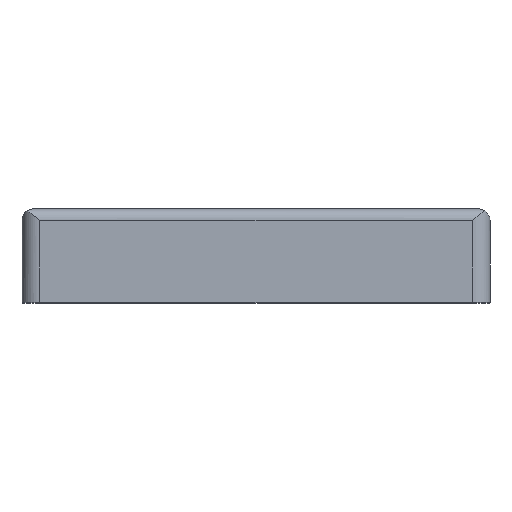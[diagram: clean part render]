
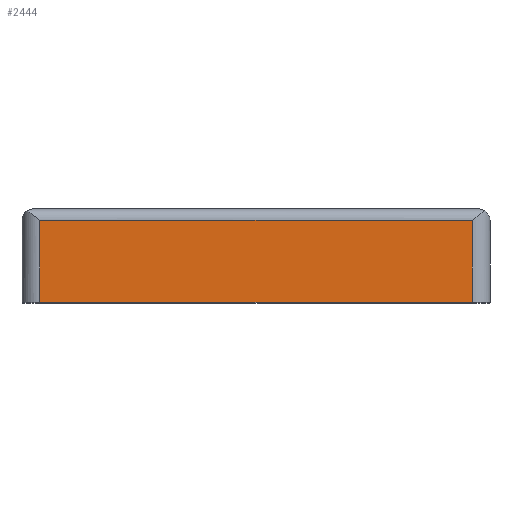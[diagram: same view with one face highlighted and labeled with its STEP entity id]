
A CAD part, top view. The second image highlights one B-rep face of the part: STEP entity #2444.
In plain terms, the highlighted planar face has unit normal (0, 0, 1).
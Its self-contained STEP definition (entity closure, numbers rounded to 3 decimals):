
#24 = CARTESIAN_POINT ( 'NONE',  ( 77., 14., 0. ) ) ;
#64 = EDGE_CURVE ( 'NONE', #2517, #1370, #1432, .T. ) ;
#255 = ORIENTED_EDGE ( 'NONE', *, *, #3673, .T. ) ;
#281 = CARTESIAN_POINT ( 'NONE',  ( 3., 14., 0. ) ) ;
#322 = DIRECTION ( 'NONE',  ( 0., -1., 0. ) ) ;
#642 = EDGE_CURVE ( 'NONE', #2912, #2517, #3320, .T. ) ;
#711 = CARTESIAN_POINT ( 'NONE',  ( 0., 14., 0. ) ) ;
#713 = CARTESIAN_POINT ( 'NONE',  ( 3., 0., 0. ) ) ;
#758 = VECTOR ( 'NONE', #322, 1000. ) ;
#823 = DIRECTION ( 'NONE',  ( 1., 0., 0. ) ) ;
#839 = CARTESIAN_POINT ( 'NONE',  ( 77., 0., 0. ) ) ;
#906 = VECTOR ( 'NONE', #823, 1000. ) ;
#995 = DIRECTION ( 'NONE',  ( 1., 0., 0. ) ) ;
#1081 = ORIENTED_EDGE ( 'NONE', *, *, #642, .T. ) ;
#1089 = VECTOR ( 'NONE', #2969, 1000. ) ;
#1296 = LINE ( 'NONE', #839, #1089 ) ;
#1365 = PLANE ( 'NONE',  #3327 ) ;
#1370 = VERTEX_POINT ( 'NONE', #1923 ) ;
#1432 = LINE ( 'NONE', #2994, #906 ) ;
#1622 = DIRECTION ( 'NONE',  ( 0., 0., 1. ) ) ;
#1635 = VECTOR ( 'NONE', #1939, 1000. ) ;
#1922 = FACE_OUTER_BOUND ( 'NONE', #2829, .T. ) ;
#1923 = CARTESIAN_POINT ( 'NONE',  ( 77., 0., 0. ) ) ;
#1939 = DIRECTION ( 'NONE',  ( -1., 0., 0. ) ) ;
#2308 = LINE ( 'NONE', #711, #1635 ) ;
#2444 = ADVANCED_FACE ( 'NONE', ( #1922 ), #1365, .T. ) ;
#2517 = VERTEX_POINT ( 'NONE', #713 ) ;
#2536 = ORIENTED_EDGE ( 'NONE', *, *, #2835, .T. ) ;
#2829 = EDGE_LOOP ( 'NONE', ( #255, #1081, #2903, #2536 ) ) ;
#2835 = EDGE_CURVE ( 'NONE', #1370, #3052, #1296, .T. ) ;
#2903 = ORIENTED_EDGE ( 'NONE', *, *, #64, .T. ) ;
#2912 = VERTEX_POINT ( 'NONE', #281 ) ;
#2969 = DIRECTION ( 'NONE',  ( 0., 1., 0. ) ) ;
#2994 = CARTESIAN_POINT ( 'NONE',  ( 0., 0., 0. ) ) ;
#2998 = CARTESIAN_POINT ( 'NONE',  ( 3., 0., 0. ) ) ;
#3052 = VERTEX_POINT ( 'NONE', #24 ) ;
#3168 = CARTESIAN_POINT ( 'NONE',  ( 0., 0., 0. ) ) ;
#3320 = LINE ( 'NONE', #2998, #758 ) ;
#3327 = AXIS2_PLACEMENT_3D ( 'NONE', #3168, #1622, #995 ) ;
#3673 = EDGE_CURVE ( 'NONE', #3052, #2912, #2308, .T. ) ;
